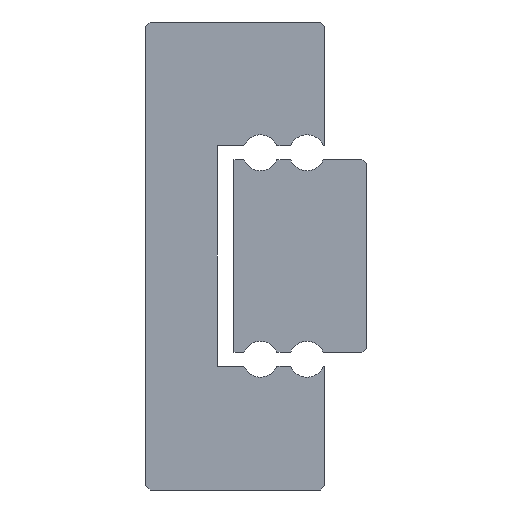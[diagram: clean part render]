
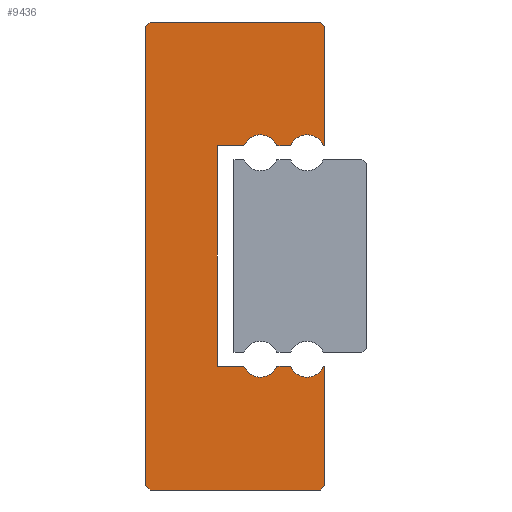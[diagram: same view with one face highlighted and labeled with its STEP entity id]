
A CAD part, left-side view. The second image highlights one B-rep face of the part: STEP entity #9436.
In plain terms, the highlighted planar face has unit normal (-1, 0, 0).
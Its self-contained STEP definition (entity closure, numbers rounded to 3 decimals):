
#312=CIRCLE('',#10254,0.65);
#314=CIRCLE('',#10258,0.65);
#316=CIRCLE('',#10264,0.65);
#318=CIRCLE('',#10268,0.65);
#1593=ORIENTED_EDGE('',*,*,#3954,.F.);
#1594=ORIENTED_EDGE('',*,*,#4402,.F.);
#1595=ORIENTED_EDGE('',*,*,#4399,.F.);
#1596=ORIENTED_EDGE('',*,*,#4388,.F.);
#1597=ORIENTED_EDGE('',*,*,#4385,.F.);
#1598=ORIENTED_EDGE('',*,*,#4382,.F.);
#1599=ORIENTED_EDGE('',*,*,#4379,.F.);
#1600=ORIENTED_EDGE('',*,*,#4376,.F.);
#1601=ORIENTED_EDGE('',*,*,#4373,.T.);
#1602=ORIENTED_EDGE('',*,*,#4370,.F.);
#1603=ORIENTED_EDGE('',*,*,#4367,.T.);
#1604=ORIENTED_EDGE('',*,*,#4364,.F.);
#1605=ORIENTED_EDGE('',*,*,#4361,.F.);
#1606=ORIENTED_EDGE('',*,*,#4358,.F.);
#1607=ORIENTED_EDGE('',*,*,#4355,.T.);
#1608=ORIENTED_EDGE('',*,*,#4352,.F.);
#1609=ORIENTED_EDGE('',*,*,#4349,.T.);
#1610=ORIENTED_EDGE('',*,*,#4346,.F.);
#1611=ORIENTED_EDGE('',*,*,#4343,.F.);
#1612=ORIENTED_EDGE('',*,*,#4340,.F.);
#3954=EDGE_CURVE('',#5394,#5395,#6368,.T.);
#4340=EDGE_CURVE('',#5395,#5780,#6506,.T.);
#4343=EDGE_CURVE('',#5780,#5782,#6509,.T.);
#4346=EDGE_CURVE('',#5782,#5784,#6512,.T.);
#4349=EDGE_CURVE('',#5786,#5784,#312,.T.);
#4352=EDGE_CURVE('',#5786,#5788,#6516,.T.);
#4355=EDGE_CURVE('',#5790,#5788,#314,.T.);
#4358=EDGE_CURVE('',#5790,#5792,#6520,.T.);
#4361=EDGE_CURVE('',#5792,#5794,#6523,.T.);
#4364=EDGE_CURVE('',#5794,#5796,#6526,.T.);
#4367=EDGE_CURVE('',#5798,#5796,#316,.T.);
#4370=EDGE_CURVE('',#5798,#5800,#6530,.T.);
#4373=EDGE_CURVE('',#5802,#5800,#318,.T.);
#4376=EDGE_CURVE('',#5802,#5804,#6534,.T.);
#4379=EDGE_CURVE('',#5804,#5806,#6537,.T.);
#4382=EDGE_CURVE('',#5806,#5808,#6540,.T.);
#4385=EDGE_CURVE('',#5808,#5810,#6543,.T.);
#4388=EDGE_CURVE('',#5810,#5812,#6546,.T.);
#4399=EDGE_CURVE('',#5812,#5822,#6549,.T.);
#4402=EDGE_CURVE('',#5822,#5394,#6552,.T.);
#5394=VERTEX_POINT('',#14429);
#5395=VERTEX_POINT('',#14430);
#5780=VERTEX_POINT('',#15202);
#5782=VERTEX_POINT('',#15208);
#5784=VERTEX_POINT('',#15214);
#5786=VERTEX_POINT('',#15220);
#5788=VERTEX_POINT('',#15226);
#5790=VERTEX_POINT('',#15232);
#5792=VERTEX_POINT('',#15238);
#5794=VERTEX_POINT('',#15244);
#5796=VERTEX_POINT('',#15250);
#5798=VERTEX_POINT('',#15256);
#5800=VERTEX_POINT('',#15262);
#5802=VERTEX_POINT('',#15268);
#5804=VERTEX_POINT('',#15274);
#5806=VERTEX_POINT('',#15280);
#5808=VERTEX_POINT('',#15286);
#5810=VERTEX_POINT('',#15292);
#5812=VERTEX_POINT('',#15298);
#5822=VERTEX_POINT('',#15320);
#6368=LINE('',#14428,#7184);
#6506=LINE('',#15201,#7322);
#6509=LINE('',#15207,#7325);
#6512=LINE('',#15213,#7328);
#6516=LINE('',#15225,#7332);
#6520=LINE('',#15237,#7336);
#6523=LINE('',#15243,#7339);
#6526=LINE('',#15249,#7342);
#6530=LINE('',#15261,#7346);
#6534=LINE('',#15273,#7350);
#6537=LINE('',#15279,#7353);
#6540=LINE('',#15285,#7356);
#6543=LINE('',#15291,#7359);
#6546=LINE('',#15297,#7362);
#6549=LINE('',#15319,#7365);
#6552=LINE('',#15325,#7368);
#7184=VECTOR('',#11265,1000.);
#7322=VECTOR('',#11901,1000.);
#7325=VECTOR('',#11906,1000.);
#7328=VECTOR('',#11911,1000.);
#7332=VECTOR('',#11923,1000.);
#7336=VECTOR('',#11935,1000.);
#7339=VECTOR('',#11940,1000.);
#7342=VECTOR('',#11945,1000.);
#7346=VECTOR('',#11957,1000.);
#7350=VECTOR('',#11969,1000.);
#7353=VECTOR('',#11974,1000.);
#7356=VECTOR('',#11979,1000.);
#7359=VECTOR('',#11984,1000.);
#7362=VECTOR('',#11989,1000.);
#7365=VECTOR('',#12010,1000.);
#7368=VECTOR('',#12015,1000.);
#8058=EDGE_LOOP('',(#1593,#1594,#1595,#1596,#1597,#1598,#1599,#1600,#1601,
#1602,#1603,#1604,#1605,#1606,#1607,#1608,#1609,#1610,#1611,#1612));
#8663=FACE_BOUND('',#8058,.T.);
#9206=PLANE('',#10286);
#9436=ADVANCED_FACE('',(#8663),#9206,.F.);
#10254=AXIS2_PLACEMENT_3D('',#15219,#11916,#11917);
#10258=AXIS2_PLACEMENT_3D('',#15231,#11928,#11929);
#10264=AXIS2_PLACEMENT_3D('',#15255,#11950,#11951);
#10268=AXIS2_PLACEMENT_3D('',#15267,#11962,#11963);
#10286=AXIS2_PLACEMENT_3D('',#15328,#12019,#12020);
#11265=DIRECTION('',(0.,-1.,0.));
#11901=DIRECTION('',(0.,-0.707,-0.707));
#11906=DIRECTION('',(0.,0.,-1.));
#11911=DIRECTION('',(0.,1.,0.));
#11916=DIRECTION('',(1.,0.,0.));
#11917=DIRECTION('',(0.,0.,-1.));
#11923=DIRECTION('',(0.,1.,0.));
#11928=DIRECTION('',(1.,0.,0.));
#11929=DIRECTION('',(0.,0.,-1.));
#11935=DIRECTION('',(0.,1.,0.));
#11940=DIRECTION('',(0.,0.,-1.));
#11945=DIRECTION('',(0.,-1.,0.));
#11950=DIRECTION('',(1.,0.,0.));
#11951=DIRECTION('',(0.,0.,-1.));
#11957=DIRECTION('',(0.,-1.,0.));
#11962=DIRECTION('',(1.,0.,0.));
#11963=DIRECTION('',(0.,0.,-1.));
#11969=DIRECTION('',(0.,-1.,0.));
#11974=DIRECTION('',(0.,0.,-1.));
#11979=DIRECTION('',(0.,0.707,-0.707));
#11984=DIRECTION('',(0.,1.,0.));
#11989=DIRECTION('',(0.,0.707,0.707));
#12010=DIRECTION('',(0.,0.,1.));
#12015=DIRECTION('',(0.,-0.707,0.707));
#12019=DIRECTION('',(1.,0.,0.));
#12020=DIRECTION('',(0.,0.,-1.));
#14428=CARTESIAN_POINT('',(-25.,6.35,8.5));
#14429=CARTESIAN_POINT('',(-25.,6.35,8.5));
#14430=CARTESIAN_POINT('',(-25.,0.15,8.5));
#15201=CARTESIAN_POINT('',(-25.,0.15,8.5));
#15202=CARTESIAN_POINT('',(-25.,0.,8.35));
#15207=CARTESIAN_POINT('',(-25.,0.,8.35));
#15208=CARTESIAN_POINT('',(-25.,0.,4.));
#15213=CARTESIAN_POINT('',(-25.,0.,4.));
#15214=CARTESIAN_POINT('',(-25.,0.05,4.));
#15219=CARTESIAN_POINT('',(-25.,0.65,3.75));
#15220=CARTESIAN_POINT('',(-25.,1.25,4.));
#15225=CARTESIAN_POINT('',(-25.,1.25,4.));
#15226=CARTESIAN_POINT('',(-25.,1.74,4.));
#15231=CARTESIAN_POINT('',(-25.,2.34,3.75));
#15232=CARTESIAN_POINT('',(-25.,2.94,4.));
#15237=CARTESIAN_POINT('',(-25.,2.94,4.));
#15238=CARTESIAN_POINT('',(-25.,3.9,4.));
#15243=CARTESIAN_POINT('',(-25.,3.9,4.));
#15244=CARTESIAN_POINT('',(-25.,3.9,-4.));
#15249=CARTESIAN_POINT('',(-25.,3.9,-4.));
#15250=CARTESIAN_POINT('',(-25.,2.94,-4.));
#15255=CARTESIAN_POINT('',(-25.,2.34,-3.75));
#15256=CARTESIAN_POINT('',(-25.,1.74,-4.));
#15261=CARTESIAN_POINT('',(-25.,1.74,-4.));
#15262=CARTESIAN_POINT('',(-25.,1.25,-4.));
#15267=CARTESIAN_POINT('',(-25.,0.65,-3.75));
#15268=CARTESIAN_POINT('',(-25.,0.05,-4.));
#15273=CARTESIAN_POINT('',(-25.,0.05,-4.));
#15274=CARTESIAN_POINT('',(-25.,0.,-4.));
#15279=CARTESIAN_POINT('',(-25.,0.,-4.));
#15280=CARTESIAN_POINT('',(-25.,0.,-8.35));
#15285=CARTESIAN_POINT('',(-25.,0.,-8.35));
#15286=CARTESIAN_POINT('',(-25.,0.15,-8.5));
#15291=CARTESIAN_POINT('',(-25.,0.15,-8.5));
#15292=CARTESIAN_POINT('',(-25.,6.35,-8.5));
#15297=CARTESIAN_POINT('',(-25.,6.35,-8.5));
#15298=CARTESIAN_POINT('',(-25.,6.5,-8.35));
#15319=CARTESIAN_POINT('',(-25.,6.5,-8.35));
#15320=CARTESIAN_POINT('',(-25.,6.5,8.35));
#15325=CARTESIAN_POINT('',(-25.,6.5,8.35));
#15328=CARTESIAN_POINT('',(-25.,0.65,3.75));
